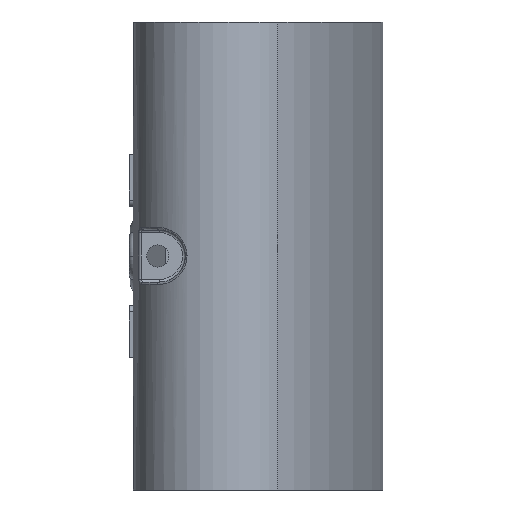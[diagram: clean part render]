
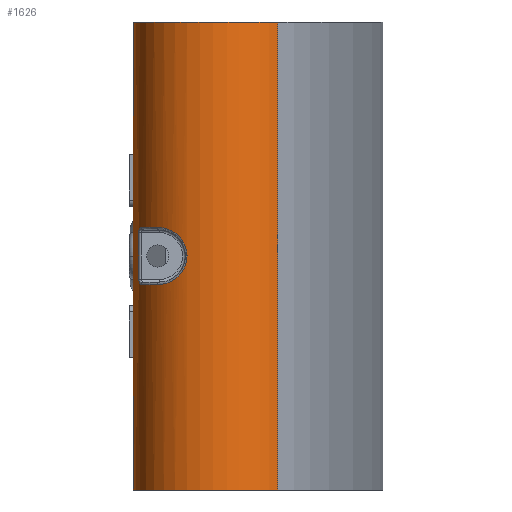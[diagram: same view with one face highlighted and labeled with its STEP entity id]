
A CAD part, left-side view. The second image highlights one B-rep face of the part: STEP entity #1626.
In plain terms, the highlighted cylindrical face has radius 15.665 mm (diameter 31.331 mm), a partial arc.
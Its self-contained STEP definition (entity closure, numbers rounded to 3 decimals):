
#1361=CARTESIAN_POINT('Vertex',(104.449,9.766,-45.)) ;
#1364=CARTESIAN_POINT('Axis2P3D Location',(94.5,-2.334,-45.)) ;
#1368=CARTESIAN_POINT('Vertex',(109.991,0.,-45.)) ;
#1371=CARTESIAN_POINT('Axis2P3D Location',(94.5,-2.334,-45.)) ;
#1375=CARTESIAN_POINT('Vertex',(95.568,-17.964,-45.)) ;
#1455=CARTESIAN_POINT('Vertex',(95.568,-17.964,-27.)) ;
#1458=CARTESIAN_POINT('Line Origine',(95.568,-17.964,0.)) ;
#1470=CARTESIAN_POINT('Axis2P3D Location',(94.5,-2.334,0.)) ;
#1475=CARTESIAN_POINT('Line Origine',(104.449,9.766,0.)) ;
#1479=CARTESIAN_POINT('Vertex',(104.449,9.766,45.)) ;
#1482=CARTESIAN_POINT('Axis2P3D Location',(94.5,-2.334,45.)) ;
#1486=CARTESIAN_POINT('Vertex',(109.991,0.,45.)) ;
#1489=CARTESIAN_POINT('Axis2P3D Location',(94.5,-2.334,45.)) ;
#1493=CARTESIAN_POINT('Vertex',(95.568,-17.964,45.)) ;
#1496=CARTESIAN_POINT('Line Origine',(95.568,-17.964,0.)) ;
#1500=CARTESIAN_POINT('Vertex',(95.568,-17.964,27.)) ;
#1503=CARTESIAN_POINT('Axis2P3D Location',(94.5,-2.334,27.)) ;
#1507=CARTESIAN_POINT('Vertex',(94.5,-18.,27.)) ;
#1510=CARTESIAN_POINT('Line Origine',(94.5,-18.,0.)) ;
#1514=CARTESIAN_POINT('Vertex',(94.5,-18.,18.5)) ;
#1517=CARTESIAN_POINT('Line Origine',(94.5,-18.,0.)) ;
#1521=CARTESIAN_POINT('Vertex',(94.5,-18.,-18.5)) ;
#1524=CARTESIAN_POINT('Line Origine',(94.5,-18.,0.)) ;
#1528=CARTESIAN_POINT('Vertex',(94.5,-18.,-27.)) ;
#1531=CARTESIAN_POINT('Axis2P3D Location',(94.5,-2.334,-27.)) ;
#1550=CARTESIAN_POINT('Axis2P3D Location',(94.5,-2.334,5.5)) ;
#1554=CARTESIAN_POINT('Vertex',(101.214,-16.488,5.5)) ;
#1556=CARTESIAN_POINT('Vertex',(105.637,-13.352,5.5)) ;
#1560=CARTESIAN_POINT('Control Point',(105.637,-13.352,5.5)) ;
#1561=CARTESIAN_POINT('Control Point',(106.3,-12.682,5.5)) ;
#1562=CARTESIAN_POINT('Control Point',(106.914,-11.96,5.404)) ;
#1563=CARTESIAN_POINT('Control Point',(107.467,-11.197,5.185)) ;
#1564=CARTESIAN_POINT('Control Point',(108.421,-9.632,4.39)) ;
#1565=CARTESIAN_POINT('Control Point',(108.974,-8.38,2.923)) ;
#1566=CARTESIAN_POINT('Control Point',(109.143,-7.906,2.003)) ;
#1567=CARTESIAN_POINT('Control Point',(109.229,-7.67,1.002)) ;
#1568=CARTESIAN_POINT('Control Point',(109.229,-7.67,0.)) ;
#1569=CARTESIAN_POINT('Vertex',(109.229,-7.67,0.)) ;
#1573=CARTESIAN_POINT('Control Point',(109.229,-7.67,0.)) ;
#1574=CARTESIAN_POINT('Control Point',(109.229,-7.67,-0.999)) ;
#1575=CARTESIAN_POINT('Control Point',(109.144,-7.905,-1.998)) ;
#1576=CARTESIAN_POINT('Control Point',(108.975,-8.376,-2.916)) ;
#1577=CARTESIAN_POINT('Control Point',(108.424,-9.625,-4.385)) ;
#1578=CARTESIAN_POINT('Control Point',(107.472,-11.19,-5.183)) ;
#1579=CARTESIAN_POINT('Control Point',(106.918,-11.956,-5.404)) ;
#1580=CARTESIAN_POINT('Control Point',(106.302,-12.68,-5.5)) ;
#1581=CARTESIAN_POINT('Control Point',(105.637,-13.352,-5.5)) ;
#1582=CARTESIAN_POINT('Vertex',(105.637,-13.352,-5.5)) ;
#1585=CARTESIAN_POINT('Axis2P3D Location',(94.5,-2.334,-5.5)) ;
#1589=CARTESIAN_POINT('Vertex',(101.214,-16.488,-5.5)) ;
#1593=CARTESIAN_POINT('Control Point',(101.214,-16.488,-5.5)) ;
#1594=CARTESIAN_POINT('Control Point',(100.919,-16.628,-5.5)) ;
#1595=CARTESIAN_POINT('Control Point',(100.622,-16.76,-5.398)) ;
#1596=CARTESIAN_POINT('Control Point',(100.336,-16.874,-5.187)) ;
#1597=CARTESIAN_POINT('Control Point',(100.181,-16.933,-4.841)) ;
#1598=CARTESIAN_POINT('Control Point',(100.181,-16.933,-4.5)) ;
#1599=CARTESIAN_POINT('Vertex',(100.181,-16.933,-4.5)) ;
#1602=CARTESIAN_POINT('Line Origine',(100.181,-16.933,0.)) ;
#1606=CARTESIAN_POINT('Vertex',(100.181,-16.933,4.5)) ;
#1610=CARTESIAN_POINT('Control Point',(100.181,-16.933,4.5)) ;
#1611=CARTESIAN_POINT('Control Point',(100.181,-16.933,4.841)) ;
#1612=CARTESIAN_POINT('Control Point',(100.336,-16.874,5.186)) ;
#1613=CARTESIAN_POINT('Control Point',(100.622,-16.76,5.398)) ;
#1614=CARTESIAN_POINT('Control Point',(100.919,-16.628,5.5)) ;
#1615=CARTESIAN_POINT('Control Point',(101.214,-16.488,5.5)) ;
#1460=VECTOR('Line Direction',#1459,1.) ;
#1477=VECTOR('Line Direction',#1476,1.) ;
#1498=VECTOR('Line Direction',#1497,1.) ;
#1512=VECTOR('Line Direction',#1511,1.) ;
#1519=VECTOR('Line Direction',#1518,1.) ;
#1526=VECTOR('Line Direction',#1525,1.) ;
#1604=VECTOR('Line Direction',#1603,1.) ;
#1365=DIRECTION('Axis2P3D Direction',(0.,0.,1.)) ;
#1372=DIRECTION('Axis2P3D Direction',(0.,0.,1.)) ;
#1459=DIRECTION('Vector Direction',(0.,0.,-1.)) ;
#1471=DIRECTION('Axis2P3D Direction',(0.,0.,1.)) ;
#1472=DIRECTION('Axis2P3D XDirection',(0.989,0.149,0.)) ;
#1476=DIRECTION('Vector Direction',(0.,0.,1.)) ;
#1483=DIRECTION('Axis2P3D Direction',(0.,0.,1.)) ;
#1490=DIRECTION('Axis2P3D Direction',(0.,0.,1.)) ;
#1497=DIRECTION('Vector Direction',(0.,0.,1.)) ;
#1504=DIRECTION('Axis2P3D Direction',(0.,0.,1.)) ;
#1511=DIRECTION('Vector Direction',(0.,0.,1.)) ;
#1518=DIRECTION('Vector Direction',(0.,0.,1.)) ;
#1525=DIRECTION('Vector Direction',(0.,0.,1.)) ;
#1532=DIRECTION('Axis2P3D Direction',(0.,0.,1.)) ;
#1551=DIRECTION('Axis2P3D Direction',(0.,0.,1.)) ;
#1586=DIRECTION('Axis2P3D Direction',(0.,0.,1.)) ;
#1603=DIRECTION('Vector Direction',(0.,0.,1.)) ;
#1366=AXIS2_PLACEMENT_3D('Circle Axis2P3D',#1364,#1365,$) ;
#1373=AXIS2_PLACEMENT_3D('Circle Axis2P3D',#1371,#1372,$) ;
#1473=AXIS2_PLACEMENT_3D('Cylinder Axis2P3D',#1470,#1471,#1472) ;
#1484=AXIS2_PLACEMENT_3D('Circle Axis2P3D',#1482,#1483,$) ;
#1491=AXIS2_PLACEMENT_3D('Circle Axis2P3D',#1489,#1490,$) ;
#1505=AXIS2_PLACEMENT_3D('Circle Axis2P3D',#1503,#1504,$) ;
#1533=AXIS2_PLACEMENT_3D('Circle Axis2P3D',#1531,#1532,$) ;
#1552=AXIS2_PLACEMENT_3D('Circle Axis2P3D',#1550,#1551,$) ;
#1587=AXIS2_PLACEMENT_3D('Circle Axis2P3D',#1585,#1586,$) ;
#1461=LINE('Line',#1458,#1460) ;
#1478=LINE('Line',#1475,#1477) ;
#1499=LINE('Line',#1496,#1498) ;
#1513=LINE('Line',#1510,#1512) ;
#1520=LINE('Line',#1517,#1519) ;
#1527=LINE('Line',#1524,#1526) ;
#1605=LINE('Line',#1602,#1604) ;
#1367=CIRCLE('generated circle',#1366,15.666) ;
#1374=CIRCLE('generated circle',#1373,15.666) ;
#1485=CIRCLE('generated circle',#1484,15.666) ;
#1492=CIRCLE('generated circle',#1491,15.666) ;
#1506=CIRCLE('generated circle',#1505,15.666) ;
#1534=CIRCLE('generated circle',#1533,15.666) ;
#1553=CIRCLE('generated circle',#1552,15.666) ;
#1588=CIRCLE('generated circle',#1587,15.666) ;
#1474=CYLINDRICAL_SURFACE('generated cylinder',#1473,15.666) ;
#1625=FACE_BOUND('',#1617,.T.) ;
#1370=EDGE_CURVE('',#1369,#1362,#1367,.T.) ;
#1377=EDGE_CURVE('',#1376,#1369,#1374,.T.) ;
#1462=EDGE_CURVE('',#1376,#1456,#1461,.F.) ;
#1481=EDGE_CURVE('',#1362,#1480,#1478,.T.) ;
#1488=EDGE_CURVE('',#1487,#1480,#1485,.T.) ;
#1495=EDGE_CURVE('',#1494,#1487,#1492,.T.) ;
#1502=EDGE_CURVE('',#1501,#1494,#1499,.T.) ;
#1509=EDGE_CURVE('',#1508,#1501,#1506,.T.) ;
#1516=EDGE_CURVE('',#1515,#1508,#1513,.T.) ;
#1523=EDGE_CURVE('',#1522,#1515,#1520,.T.) ;
#1530=EDGE_CURVE('',#1529,#1522,#1527,.T.) ;
#1535=EDGE_CURVE('',#1456,#1529,#1534,.F.) ;
#1558=EDGE_CURVE('',#1555,#1557,#1553,.T.) ;
#1571=EDGE_CURVE('',#1557,#1570,#1559,.T.) ;
#1584=EDGE_CURVE('',#1570,#1583,#1572,.T.) ;
#1591=EDGE_CURVE('',#1583,#1590,#1588,.F.) ;
#1601=EDGE_CURVE('',#1590,#1600,#1592,.T.) ;
#1608=EDGE_CURVE('',#1600,#1607,#1605,.T.) ;
#1616=EDGE_CURVE('',#1607,#1555,#1609,.T.) ;
#1536=EDGE_LOOP('',(#1537,#1538,#1539,#1540,#1541,#1542,#1543,#1544,#1545,#1546,#1547,#1548)) ;
#1617=EDGE_LOOP('',(#1618,#1619,#1620,#1621,#1622,#1623,#1624)) ;
#1537=ORIENTED_EDGE('',*,*,#1377,.T.) ;
#1538=ORIENTED_EDGE('',*,*,#1370,.T.) ;
#1539=ORIENTED_EDGE('',*,*,#1481,.T.) ;
#1540=ORIENTED_EDGE('',*,*,#1488,.F.) ;
#1541=ORIENTED_EDGE('',*,*,#1495,.F.) ;
#1542=ORIENTED_EDGE('',*,*,#1502,.F.) ;
#1543=ORIENTED_EDGE('',*,*,#1509,.F.) ;
#1544=ORIENTED_EDGE('',*,*,#1516,.F.) ;
#1545=ORIENTED_EDGE('',*,*,#1523,.F.) ;
#1546=ORIENTED_EDGE('',*,*,#1530,.F.) ;
#1547=ORIENTED_EDGE('',*,*,#1535,.F.) ;
#1548=ORIENTED_EDGE('',*,*,#1462,.F.) ;
#1618=ORIENTED_EDGE('',*,*,#1558,.T.) ;
#1619=ORIENTED_EDGE('',*,*,#1571,.T.) ;
#1620=ORIENTED_EDGE('',*,*,#1584,.T.) ;
#1621=ORIENTED_EDGE('',*,*,#1591,.T.) ;
#1622=ORIENTED_EDGE('',*,*,#1601,.T.) ;
#1623=ORIENTED_EDGE('',*,*,#1608,.T.) ;
#1624=ORIENTED_EDGE('',*,*,#1616,.T.) ;
#1362=VERTEX_POINT('',#1361) ;
#1369=VERTEX_POINT('',#1368) ;
#1376=VERTEX_POINT('',#1375) ;
#1456=VERTEX_POINT('',#1455) ;
#1480=VERTEX_POINT('',#1479) ;
#1487=VERTEX_POINT('',#1486) ;
#1494=VERTEX_POINT('',#1493) ;
#1501=VERTEX_POINT('',#1500) ;
#1508=VERTEX_POINT('',#1507) ;
#1515=VERTEX_POINT('',#1514) ;
#1522=VERTEX_POINT('',#1521) ;
#1529=VERTEX_POINT('',#1528) ;
#1555=VERTEX_POINT('',#1554) ;
#1557=VERTEX_POINT('',#1556) ;
#1570=VERTEX_POINT('',#1569) ;
#1583=VERTEX_POINT('',#1582) ;
#1590=VERTEX_POINT('',#1589) ;
#1600=VERTEX_POINT('',#1599) ;
#1607=VERTEX_POINT('',#1606) ;
#1626=ADVANCED_FACE('\X2\96F64EF651E04F554F53\X0\',(#1549,#1625),#1474,.T.) ;
#1559=B_SPLINE_CURVE_WITH_KNOTS('',5,(#1560,#1561,#1562,#1563,#1564,#1565,#1566,#1567,#1568),.UNSPECIFIED.,.F.,.U.,(6,3,6),(28.375,34.792,41.56),.UNSPECIFIED.) ;
#1572=B_SPLINE_CURVE_WITH_KNOTS('',5,(#1573,#1574,#1575,#1576,#1577,#1578,#1579,#1580,#1581),.UNSPECIFIED.,.F.,.U.,(6,3,6),(24.341,31.09,37.526),.UNSPECIFIED.) ;
#1592=B_SPLINE_CURVE_WITH_KNOTS('',5,(#1593,#1594,#1595,#1596,#1597,#1598),.UNSPECIFIED.,.F.,.U.,(6,6),(2.876,4.785),.UNSPECIFIED.) ;
#1609=B_SPLINE_CURVE_WITH_KNOTS('',5,(#1610,#1611,#1612,#1613,#1614,#1615),.UNSPECIFIED.,.F.,.U.,(6,6),(2.944,4.852),.UNSPECIFIED.) ;
#1549=FACE_OUTER_BOUND('',#1536,.T.) ;
